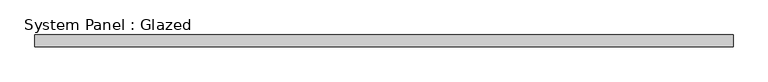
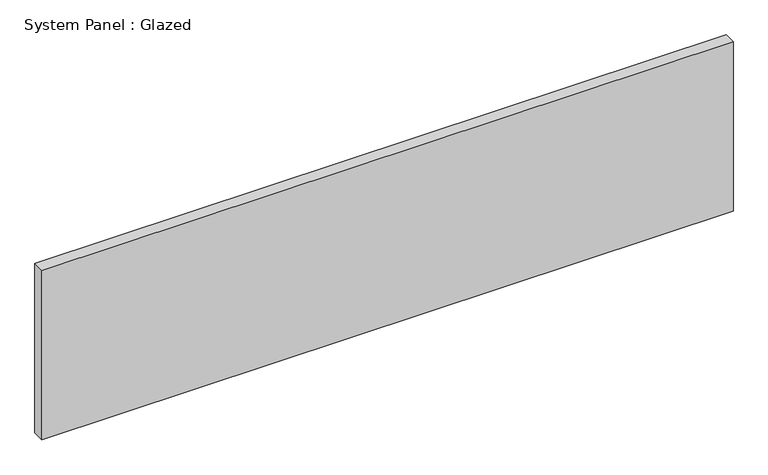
"""IFC4 building model written with IfcOpenShell, lengths in millimetres: plate geometry, System Panel : Glazed."""

from ifc_helpers import new_model, si_unit, origin, origin_with_axes, place, context, project, spatial, polyline, outline, extrude, source, transform, mapped, element, save


def system_panel_glazed_25ba59a8(model_context):
    return source(origin(), model_context, "Body", "SweptSolid", [
        extrude(outline(polyline([(736.9999999, 24.5), (-736.9999999, 24.5), (-736.9999999, 49.5), (736.9999999, 49.5), (736.9999999, 24.5)])), origin_with_axes(), (0.0, 0.0, 1.0), 382.2),
    ])


if __name__ == "__main__":
    model = new_model("IFC4")
    model_context = context("Model", 3, world=origin())
    ifc_project = project(units=[si_unit("LENGTHUNIT", "METRE", prefix="MILLI")], contexts=[model_context])
    site = spatial("IfcSite", under=ifc_project)
    building = spatial("IfcBuilding", under=site)
    placement = place(None, origin())
    system_panel_glazed_shape = system_panel_glazed_25ba59a8(model_context)
    element("IfcPlate", 1, ObjectType="System Panel : Glazed", at=placement, inside=building, context=model_context, shape_type="MappedRepresentation", body=[
        mapped(system_panel_glazed_shape, transform((0.0, 0.0, 0.0), x_axis=(1.0, 0.0, 0.0), y_axis=(0.0, 1.0, 0.0), z_axis=(0.0, 0.0, 1.0))),
    ])
    save(model, "model.ifc")
